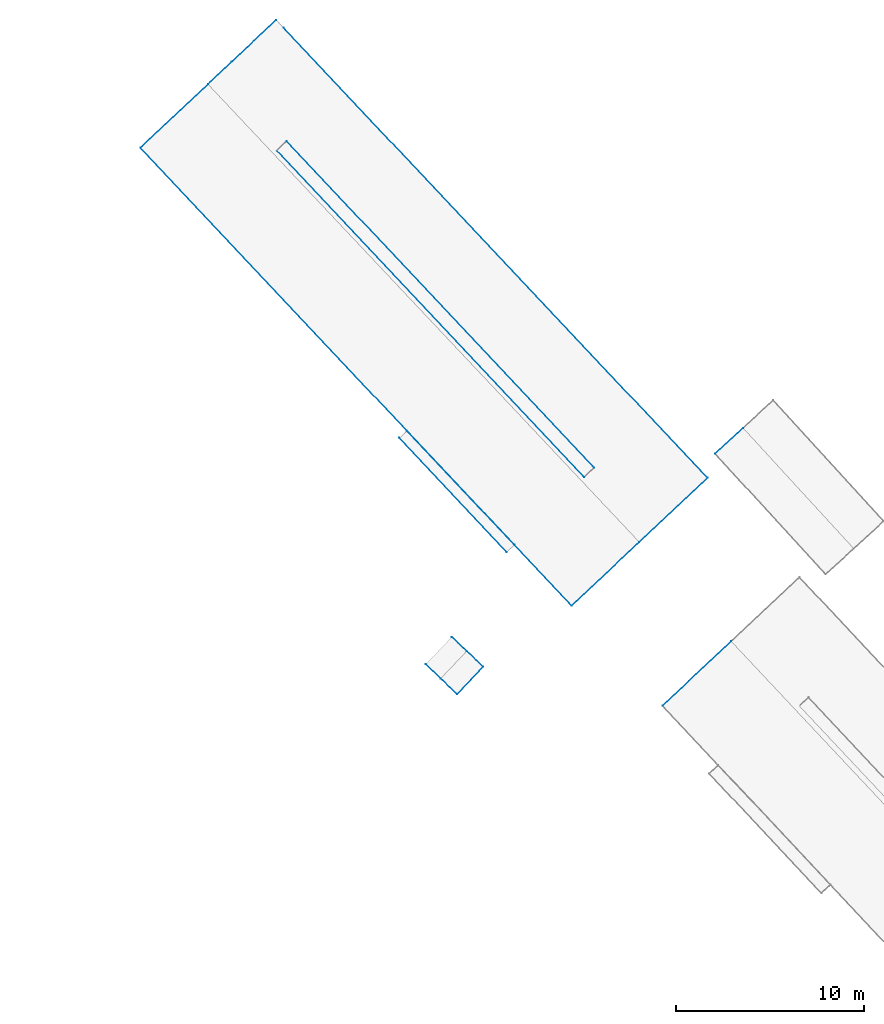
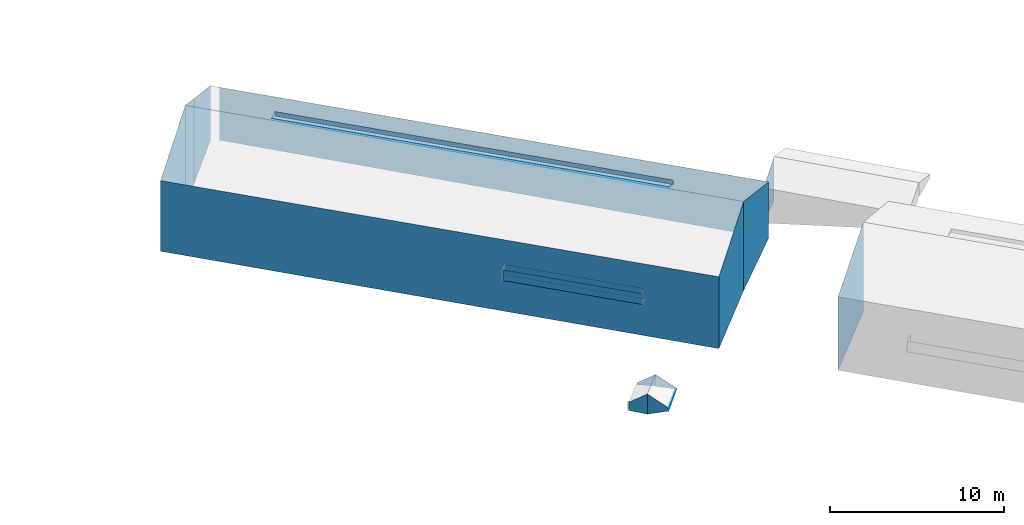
# Not in any storey, part 54 of 136: 20 walls.
"""IFC4 building model written with IfcOpenShell, lengths in metres."""

from ifc_helpers import new_model, entity, si_unit, converted_unit, origin, place, context, subcontext, project, spatial, face_set, surface_model, element, save


model = new_model("IFC4")

# Units and contexts
model_context = context("Model", 3, precision=1e-05, world=origin())
body_context = subcontext(model_context, "Body", "Model", "MODEL_VIEW")
ifc_project = project(units=[converted_unit("PLANEANGLEUNIT", "DEGREE", entity("IfcRatioMeasure", 0.0174532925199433), si_unit("PLANEANGLEUNIT", "RADIAN"), dimensions=[0, 0, 0, 0, 0, 0, 0]), si_unit("AREAUNIT", "SQUARE_METRE"), si_unit("LENGTHUNIT", "METRE")], contexts=[model_context])

# Site, building
site_placement = place(None, origin())
site = spatial("IfcSite", under=ifc_project, at=site_placement, Name="_site")
building_1_placement = place(site_placement, origin())
building_1 = spatial("IfcBuilding", under=site, at=building_1_placement, Name="_building")

# Walls
wall_1_placement = place(building_1_placement, origin())
element("IfcWall", 1, at=wall_1_placement, inside=building_1, Name="Wall", PredefinedType="NOTDEFINED", context=body_context, shape_type="SurfaceModel", body=[
    surface_model("IfcFaceBasedSurfaceModel", [(52.76, 147.43, 42.19), (58.49, 141.351, 42.19), (58.49, 141.351, 42.94), (52.76, 147.43, 42.94)], [face_set([[[0, 1, 2, 3]]])]),
])
wall_2_placement = place(building_1_placement, origin())
element("IfcWall", 2, at=wall_2_placement, inside=building_1, Name="Wall", PredefinedType="NOTDEFINED", context=body_context, shape_type="SurfaceModel", body=[
    surface_model("IfcFaceBasedSurfaceModel", [(58.08, 140.97, 42.19), (52.36, 147.04, 42.19), (52.36, 147.04, 42.94), (58.08, 140.97, 42.94)], [face_set([[[0, 1, 2, 3]]])]),
])
wall_3_placement = place(building_1_placement, origin())
element("IfcWall", 3, at=wall_3_placement, inside=building_1, Name="Wall", PredefinedType="NOTDEFINED", context=body_context, shape_type="SurfaceModel", body=[
    surface_model("IfcFaceBasedSurfaceModel", [(61.53, 138.12, 44.65), (38.59, 162.47, 44.65), (38.59, 162.47, 39.703), (61.53, 138.12, 39.615)], [face_set([[[0, 1, 2, 3]]])]),
])
wall_4_placement = place(building_1_placement, origin())
element("IfcWall", 4, at=wall_4_placement, inside=building_1, Name="Wall", PredefinedType="NOTDEFINED", context=body_context, shape_type="SurfaceModel", body=[
    surface_model("IfcFaceBasedSurfaceModel", [(62.2, 144.96, 46.522), (45.84, 162.33, 46.521), (62.2, 144.96, 46.243)], [face_set([[[0, 1, 2]]])]),
])
wall_5_placement = place(building_1_placement, origin())
element("IfcWall", 5, at=wall_5_placement, inside=building_1, Name="Wall", PredefinedType="NOTDEFINED", context=body_context, shape_type="SurfaceModel", body=[
    surface_model("IfcFaceBasedSurfaceModel", [(46.37, 162.83, 46.55), (62.73, 145.46, 46.55), (62.73, 145.46, 46.234), (46.37, 162.83, 46.233)], [face_set([[[0, 1, 2, 3]]])]),
])
wall_6_placement = place(building_1_placement, origin())
element("IfcWall", 6, at=wall_6_placement, inside=building_1, Name="Wall", PredefinedType="NOTDEFINED", context=body_context, shape_type="SurfaceModel", body=[
    surface_model("IfcFaceBasedSurfaceModel", [(46.2, 168.86, 44.65), (68.75, 144.92, 44.65), (68.75, 144.92, 40.701), (46.2, 168.86, 40.944)], [face_set([[[0, 1, 2, 3]]])]),
])
wall_7_placement = place(building_1_placement, origin())
element("IfcWall", 7, at=wall_7_placement, inside=building_1, Name="Wall", PredefinedType="NOTDEFINED", context=body_context, shape_type="SurfaceModel", body=[
    surface_model("IfcFaceBasedSurfaceModel", [(68.75, 144.92, 44.65), (65.12, 141.5, 46.62), (65.12, 141.5, 40.374), (68.75, 144.92, 40.701)], [face_set([[[0, 1, 2, 3]]])]),
])
wall_8_placement = place(building_1_placement, origin())
element("IfcWall", 8, at=wall_8_placement, inside=building_1, Name="Wall", PredefinedType="NOTDEFINED", context=body_context, shape_type="SurfaceModel", body=[
    surface_model("IfcFaceBasedSurfaceModel", [(52.76, 147.43, 42.19), (58.49, 141.351, 42.19), (58.49, 141.351, 42.94), (52.76, 147.43, 42.94)], [face_set([[[0, 1, 2, 3]]])]),
])
wall_9_placement = place(building_1_placement, origin())
element("IfcWall", 9, at=wall_9_placement, inside=building_1, Name="Wall", PredefinedType="NOTDEFINED", context=body_context, shape_type="SurfaceModel", body=[
    surface_model("IfcFaceBasedSurfaceModel", [(38.59, 162.47, 44.65), (42.18, 165.851, 46.62), (42.18, 165.851, 39.852), (38.59, 162.47, 39.703)], [face_set([[[0, 1, 2, 3]]])]),
])
wall_10_placement = place(building_1_placement, origin())
element("IfcWall", 10, at=wall_10_placement, inside=building_1, Name="Wall", PredefinedType="NOTDEFINED", context=body_context, shape_type="SurfaceModel", body=[
    surface_model("IfcFaceBasedSurfaceModel", [(65.12, 141.5, 46.62), (61.53, 138.12, 44.65), (61.53, 138.12, 39.615), (65.12, 141.5, 40.374)], [face_set([[[0, 1, 2, 3]]])]),
])
wall_11_placement = place(building_1_placement, origin())
element("IfcWall", 11, at=wall_11_placement, inside=building_1, Name="Wall", PredefinedType="NOTDEFINED", context=body_context, shape_type="SurfaceModel", body=[
    surface_model("IfcFaceBasedSurfaceModel", [(58.08, 140.97, 42.19), (52.36, 147.04, 42.19), (52.36, 147.04, 42.94), (58.08, 140.97, 42.94)], [face_set([[[0, 1, 2, 3]]])]),
])
wall_12_placement = place(building_1_placement, origin())
element("IfcWall", 12, at=wall_12_placement, inside=building_1, Name="Wall", PredefinedType="NOTDEFINED", context=body_context, shape_type="SurfaceModel", body=[
    surface_model("IfcFaceBasedSurfaceModel", [(43.44, 167.04, 45.93), (45.81, 169.271, 44.65), (45.81, 169.271, 40.788), (43.44, 167.04, 39.951)], [face_set([[[0, 1, 2, 3]]])]),
])
wall_13_placement = place(building_1_placement, origin())
element("IfcWall", 13, at=wall_13_placement, inside=building_1, Name="Wall", PredefinedType="NOTDEFINED", context=body_context, shape_type="SurfaceModel", body=[
    surface_model("IfcFaceBasedSurfaceModel", [(42.18, 165.851, 46.62), (43.44, 167.04, 45.93), (43.44, 167.04, 39.951), (42.18, 165.851, 39.852)], [face_set([[[0, 1, 2, 3]]])]),
])

# Building
building_2_placement = place(site_placement, origin())
building_2 = spatial("IfcBuilding", under=site, at=building_2_placement, Name="_building")

# Walls
wall_14_placement = place(building_2_placement, origin())
element("IfcWall", 14, at=wall_14_placement, inside=building_2, Name="Wall", PredefinedType="NOTDEFINED", context=body_context, shape_type="SurfaceModel", body=[
    surface_model("IfcFaceBasedSurfaceModel", [(55.94, 135.7, 41.24), (56.82, 134.86, 40.48), (56.82, 134.86, 40.395), (55.94, 135.7, 40.411)], [face_set([[[0, 1, 2, 3]]])]),
])
wall_15_placement = place(building_2_placement, origin())
element("IfcWall", 15, at=wall_15_placement, inside=building_2, Name="Wall", PredefinedType="NOTDEFINED", context=body_context, shape_type="SurfaceModel", body=[
    surface_model("IfcFaceBasedSurfaceModel", [(56.82, 134.86, 40.48), (55.44, 133.4, 40.48), (55.44, 133.4, 40.226), (56.82, 134.86, 40.395)], [face_set([[[0, 1, 2, 3]]])]),
])
wall_16_placement = place(building_2_placement, origin())
element("IfcWall", 16, at=wall_16_placement, inside=building_2, Name="Wall", PredefinedType="NOTDEFINED", context=body_context, shape_type="SurfaceModel", body=[
    surface_model("IfcFaceBasedSurfaceModel", [(55.14, 136.45, 40.48), (55.94, 135.7, 41.24), (55.94, 135.7, 40.411), (55.14, 136.45, 40.342)], [face_set([[[0, 1, 2, 3]]])]),
])
wall_17_placement = place(building_2_placement, origin())
element("IfcWall", 17, at=wall_17_placement, inside=building_2, Name="Wall", PredefinedType="NOTDEFINED", context=body_context, shape_type="SurfaceModel", body=[
    surface_model("IfcFaceBasedSurfaceModel", [(54.55, 134.24, 41.24), (53.76, 135.0, 40.48), (53.76, 135.0, 39.895), (54.55, 134.24, 39.813)], [face_set([[[0, 1, 2, 3]]])]),
])
wall_18_placement = place(building_2_placement, origin())
element("IfcWall", 18, at=wall_18_placement, inside=building_2, Name="Wall", PredefinedType="NOTDEFINED", context=body_context, shape_type="SurfaceModel", body=[
    surface_model("IfcFaceBasedSurfaceModel", [(55.44, 133.4, 40.48), (54.55, 134.24, 41.24), (54.55, 134.24, 39.813), (55.44, 133.4, 40.226)], [face_set([[[0, 1, 2, 3]]])]),
])

# Building
building_3_placement = place(site_placement, origin())
building_3 = spatial("IfcBuilding", under=site, at=building_3_placement, Name="_building")

# Wall
wall_19_placement = place(building_3_placement, origin())
element("IfcWall", 19, at=wall_19_placement, inside=building_3, Name="Wall", PredefinedType="NOTDEFINED", context=body_context, shape_type="SurfaceModel", body=[
    surface_model("IfcFaceBasedSurfaceModel", [(66.36, 132.8, 44.78), (70.01, 136.22, 46.66), (70.01, 136.22, 40.401), (66.36, 132.8, 39.634)], [face_set([[[0, 1, 2, 3]]])]),
])

# Building
building_4_placement = place(site_placement, origin())
building_4 = spatial("IfcBuilding", under=site, at=building_4_placement, Name="_building")

# Wall
wall_20_placement = place(building_4_placement, origin())
element("IfcWall", 20, at=wall_20_placement, inside=building_4, Name="Wall", PredefinedType="NOTDEFINED", context=body_context, shape_type="SurfaceModel", body=[
    surface_model("IfcFaceBasedSurfaceModel", [(69.16, 146.21, 43.3), (70.64, 147.57, 44.16), (70.64, 147.57, 41.055), (69.16, 146.21, 40.837)], [face_set([[[0, 1, 2, 3]]])]),
])

save(model, "model.ifc")
